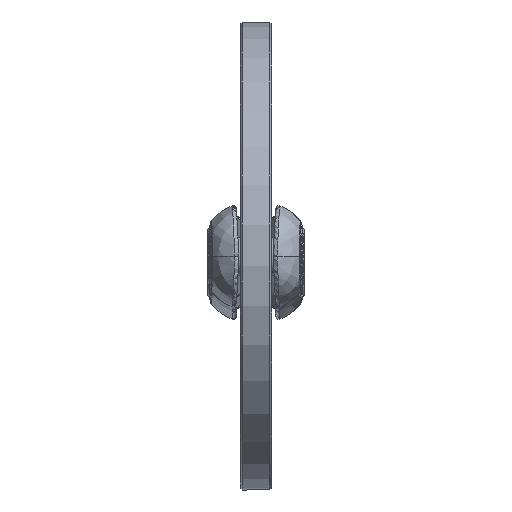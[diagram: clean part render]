
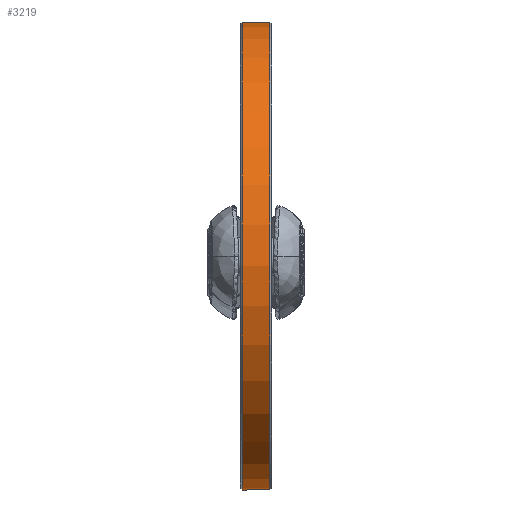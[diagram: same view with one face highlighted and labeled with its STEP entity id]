
A CAD part, top view. The second image highlights one B-rep face of the part: STEP entity #3219.
In plain terms, the highlighted cylindrical face has radius 370 mm (diameter 740 mm), a full revolution.
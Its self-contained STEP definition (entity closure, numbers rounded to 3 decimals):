
#783=FACE_BOUND($,#1484,.T.);
#973=CIRCLE($,#3575,370.);
#974=CIRCLE($,#3577,370.);
#1176=FACE_OUTER_BOUND($,#1483,.T.);
#1483=EDGE_LOOP($,(#2951));
#1484=EDGE_LOOP($,(#2952));
#1778=VERTEX_POINT($,#13982);
#1779=VERTEX_POINT($,#13985);
#2174=EDGE_CURVE($,#1778,#1778,#973,.T.);
#2175=EDGE_CURVE($,#1779,#1779,#974,.T.);
#2951=ORIENTED_EDGE($,*,*,#2175,.F.);
#2952=ORIENTED_EDGE($,*,*,#2174,.F.);
#3005=CYLINDRICAL_SURFACE($,#3576,370.);
#3219=ADVANCED_FACE($,(#1176,#783),#3005,.T.);
#3575=AXIS2_PLACEMENT_3D($,#13983,#4344,#4345);
#3576=AXIS2_PLACEMENT_3D($,#13984,#4346,#4347);
#3577=AXIS2_PLACEMENT_3D($,#13986,#4348,#4349);
#4344=DIRECTION('center_axis',(0.,0.,-1.));
#4345=DIRECTION('ref_axis',(-1.,0.,0.));
#4346=DIRECTION('center_axis',(0.,0.,1.));
#4347=DIRECTION('ref_axis',(-1.,0.,0.));
#4348=DIRECTION('center_axis',(0.,0.,1.));
#4349=DIRECTION('ref_axis',(-1.,0.,0.));
#13982=CARTESIAN_POINT('',(370.,0.,-22.));
#13983=CARTESIAN_POINT('Origin',(0.,0.,-22.));
#13984=CARTESIAN_POINT('Origin',(0.,0.,0.));
#13985=CARTESIAN_POINT('',(370.,0.,22.));
#13986=CARTESIAN_POINT('Origin',(0.,0.,22.));
